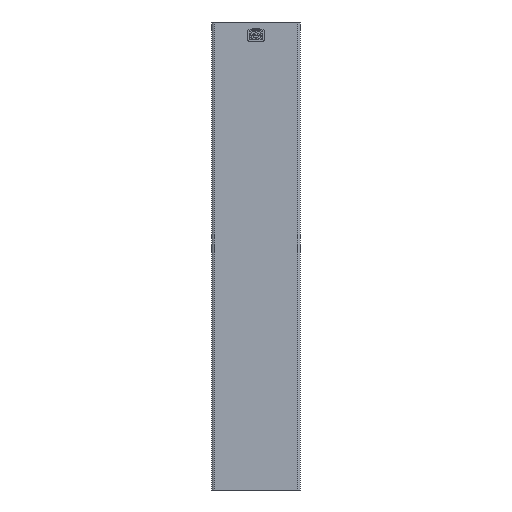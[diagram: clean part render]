
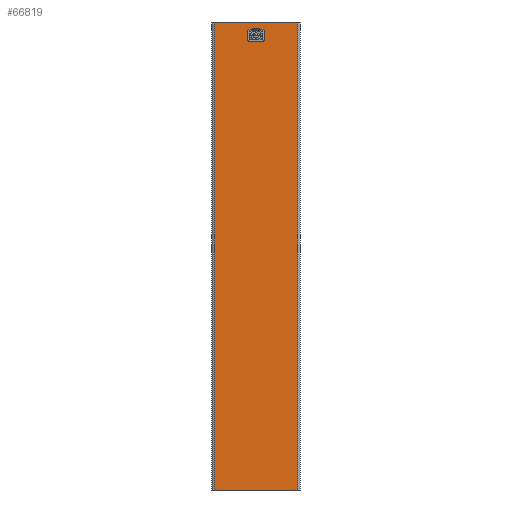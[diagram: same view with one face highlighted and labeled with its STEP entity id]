
A CAD part, left-side view. The second image highlights one B-rep face of the part: STEP entity #66819.
In plain terms, the highlighted planar face has unit normal (-1, 0, 0).
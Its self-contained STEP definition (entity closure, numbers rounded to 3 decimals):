
#48485=DIRECTION('',(0.,-1.,0.));
#48486=VECTOR('',#48485,94.);
#48487=CARTESIAN_POINT('',(-30.,47.,0.));
#48488=LINE('',#48487,#48486);
#48581=DIRECTION('',(0.,0.,1.));
#48582=VECTOR('',#48581,529.);
#48583=CARTESIAN_POINT('',(-30.,-47.,0.));
#48584=LINE('',#48583,#48582);
#48589=DIRECTION('',(0.,-1.,0.));
#48590=VECTOR('',#48589,94.);
#48591=CARTESIAN_POINT('',(-30.,47.,529.));
#48592=LINE('',#48591,#48590);
#48597=DIRECTION('',(0.,0.,-1.));
#48598=VECTOR('',#48597,529.);
#48599=CARTESIAN_POINT('',(-30.,47.,529.));
#48600=LINE('',#48599,#48598);
#64056=CARTESIAN_POINT('',(-30.,47.,0.));
#64057=VERTEX_POINT('',#64056);
#64058=CARTESIAN_POINT('',(-30.,-47.,0.));
#64059=VERTEX_POINT('',#64058);
#64100=CARTESIAN_POINT('',(-30.,-47.,529.));
#64101=VERTEX_POINT('',#64100);
#64102=CARTESIAN_POINT('',(-30.,47.,529.));
#64103=VERTEX_POINT('',#64102);
#66806=CARTESIAN_POINT('',(-30.,47.,0.));
#66807=DIRECTION('',(-1.,0.,0.));
#66808=DIRECTION('',(0.,-1.,0.));
#66809=AXIS2_PLACEMENT_3D('',#66806,#66807,#66808);
#66810=PLANE('',#66809);
#66812=ORIENTED_EDGE('',*,*,#66811,.F.);
#66814=ORIENTED_EDGE('',*,*,#66813,.T.);
#66815=ORIENTED_EDGE('',*,*,#66790,.F.);
#66816=ORIENTED_EDGE('',*,*,#66656,.F.);
#66817=EDGE_LOOP('',(#66812,#66814,#66815,#66816));
#66818=FACE_OUTER_BOUND('',#66817,.F.);
#66656=EDGE_CURVE('',#64057,#64059,#48488,.T.);
#66790=EDGE_CURVE('',#64059,#64101,#48584,.T.);
#66811=EDGE_CURVE('',#64103,#64057,#48600,.T.);
#66813=EDGE_CURVE('',#64103,#64101,#48592,.T.);
#66819=ADVANCED_FACE('',(#66818),#66810,.T.);
